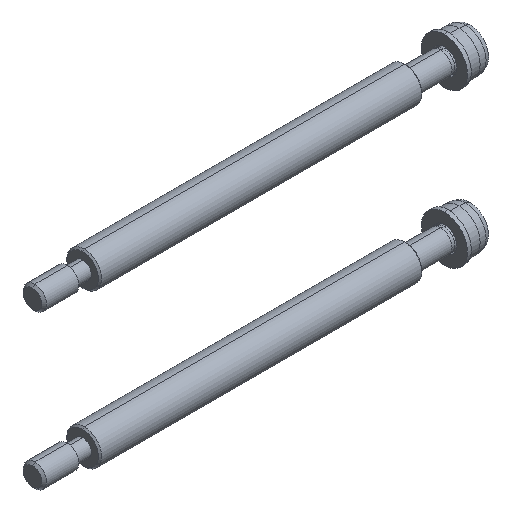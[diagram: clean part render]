
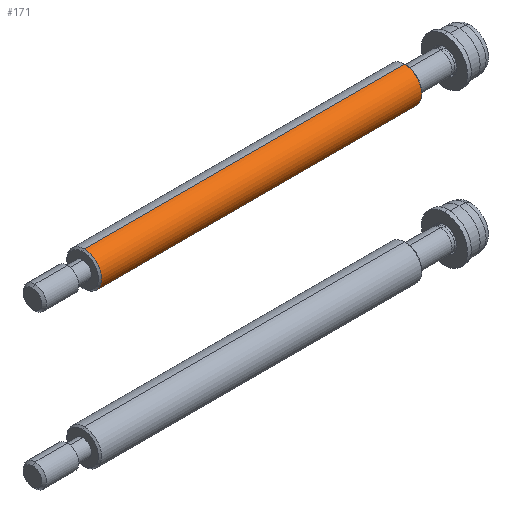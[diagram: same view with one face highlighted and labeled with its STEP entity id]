
A CAD part, isometric view. The second image highlights one B-rep face of the part: STEP entity #171.
In plain terms, the highlighted cylindrical face has radius 2.25 mm (diameter 4.5 mm), a partial arc.
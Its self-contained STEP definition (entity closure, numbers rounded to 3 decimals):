
#171=ADVANCED_FACE('',(#595),#594,.T.);
#594=CYLINDRICAL_SURFACE('',#995,2.25);
#595=FACE_OUTER_BOUND('',#996,.T.);
#992=CARTESIAN_POINT('',(0.,0.,0.));
#993=DIRECTION('',(1.,0.,0.));
#994=DIRECTION('',(0.,0.,1.));
#995=AXIS2_PLACEMENT_3D('',#992,#993,#994);
#996=EDGE_LOOP('',(#1178,#1179,#1180,#1181));
#1178=ORIENTED_EDGE('',*,*,#1285,.T.);
#1179=ORIENTED_EDGE('',*,*,#1286,.F.);
#1180=ORIENTED_EDGE('',*,*,#1281,.T.);
#1181=ORIENTED_EDGE('',*,*,#1287,.T.);
#1281=EDGE_CURVE('',#1799,#1798,#1818,.T.);
#1285=EDGE_CURVE('',#1825,#1824,#1844,.T.);
#1286=EDGE_CURVE('',#1799,#1824,#1850,.T.);
#1287=EDGE_CURVE('',#1798,#1825,#1856,.T.);
#1798=VERTEX_POINT('',#2188);
#1799=VERTEX_POINT('',#2189);
#1818=CIRCLE('',#2201,2.25);
#1824=VERTEX_POINT('',#2202);
#1825=VERTEX_POINT('',#2203);
#1844=CIRCLE('',#2215,2.25);
#1850=(BOUNDED_CURVE() B_SPLINE_CURVE(1,(#2216,#2217),.UNSPECIFIED.,.F.,.F.) B_SPLINE_CURVE_WITH_KNOTS((2,2),(0.083,0.917),.UNSPECIFIED.) CURVE() GEOMETRIC_REPRESENTATION_ITEM() RATIONAL_B_SPLINE_CURVE((1.,1.)) REPRESENTATION_ITEM('') );
#1856=(BOUNDED_CURVE() B_SPLINE_CURVE(1,(#2218,#2219),.UNSPECIFIED.,.F.,.F.) B_SPLINE_CURVE_WITH_KNOTS((2,2),(0.083,0.917),.UNSPECIFIED.) CURVE() GEOMETRIC_REPRESENTATION_ITEM() RATIONAL_B_SPLINE_CURVE((0.75,0.75)) REPRESENTATION_ITEM('') );
#2188=CARTESIAN_POINT('',(0.2,0.,-2.25));
#2189=CARTESIAN_POINT('',(0.2,0.,2.25));
#2198=CARTESIAN_POINT('',(0.2,0.,0.));
#2199=DIRECTION('',(1.,0.,0.));
#2200=DIRECTION('',(0.,0.,1.));
#2201=AXIS2_PLACEMENT_3D('',#2198,#2199,#2200);
#2202=CARTESIAN_POINT('',(41.8,0.,2.25));
#2203=CARTESIAN_POINT('',(41.8,0.,-2.25));
#2212=CARTESIAN_POINT('',(41.8,0.,0.));
#2213=DIRECTION('',(-1.,0.,0.));
#2214=DIRECTION('',(0.,0.,-1.));
#2215=AXIS2_PLACEMENT_3D('',#2212,#2213,#2214);
#2216=CARTESIAN_POINT('',(0.2,0.,2.25));
#2217=CARTESIAN_POINT('',(41.8,0.,2.25));
#2218=CARTESIAN_POINT('',(0.2,0.,-2.25));
#2219=CARTESIAN_POINT('',(41.8,0.,-2.25));
